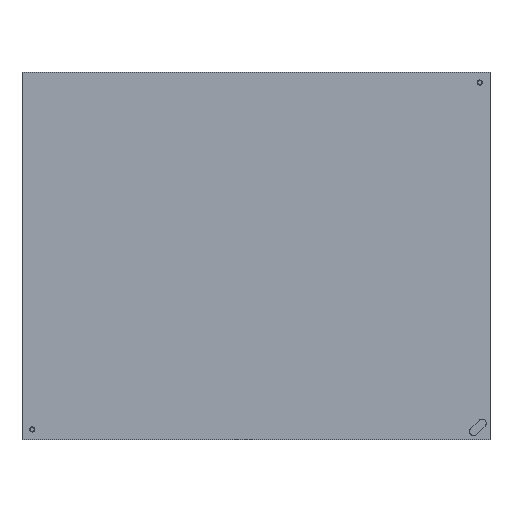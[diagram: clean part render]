
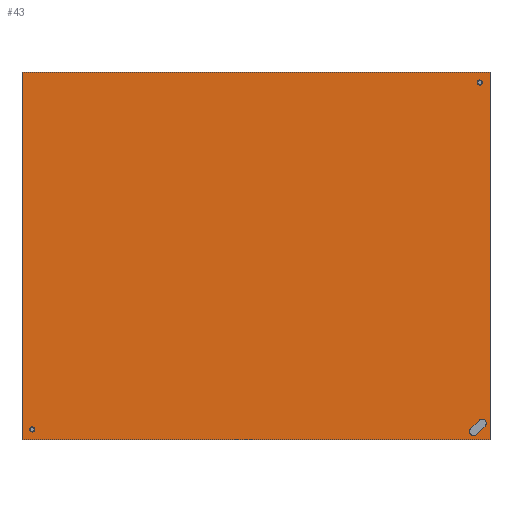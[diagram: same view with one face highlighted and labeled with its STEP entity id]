
A CAD part, front view. The second image highlights one B-rep face of the part: STEP entity #43.
In plain terms, the highlighted planar face has unit normal (0, -1, 0).
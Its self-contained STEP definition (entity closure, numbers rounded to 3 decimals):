
#2 = ORIENTED_EDGE ( 'NONE', *, *, #354, .F. ) ;
#14 = LINE ( 'NONE', #719, #769 ) ;
#17 = EDGE_CURVE ( 'NONE', #273, #810, #275, .T. ) ;
#19 = CARTESIAN_POINT ( 'NONE',  ( 0., 0., 0. ) ) ;
#25 = DIRECTION ( 'NONE',  ( 0., 0., -1. ) ) ;
#43 = ADVANCED_FACE ( 'NONE', ( #649, #632 ), #355, .F. ) ;
#45 = DIRECTION ( 'NONE',  ( 0., -1., 0. ) ) ;
#83 = VECTOR ( 'NONE', #378, 1000. ) ;
#84 = EDGE_CURVE ( 'NONE', #781, #895, #446, .T. ) ;
#123 = LINE ( 'NONE', #744, #475 ) ;
#147 = AXIS2_PLACEMENT_3D ( 'NONE', #870, #457, #25 ) ;
#150 = EDGE_CURVE ( 'NONE', #182, #273, #14, .T. ) ;
#151 = VERTEX_POINT ( 'NONE', #773 ) ;
#182 = VERTEX_POINT ( 'NONE', #291 ) ;
#184 = CARTESIAN_POINT ( 'NONE',  ( 227.071, 0., -168.586 ) ) ;
#198 = ORIENTED_EDGE ( 'NONE', *, *, #408, .F. ) ;
#208 = CIRCLE ( 'NONE', #580, 4. ) ;
#214 = EDGE_CURVE ( 'NONE', #810, #667, #464, .T. ) ;
#234 = CIRCLE ( 'NONE', #774, 4. ) ;
#257 = CARTESIAN_POINT ( 'NONE',  ( 218.586, 0., -177.071 ) ) ;
#271 = VECTOR ( 'NONE', #301, 1000. ) ;
#273 = VERTEX_POINT ( 'NONE', #556 ) ;
#275 = LINE ( 'NONE', #455, #83 ) ;
#291 = CARTESIAN_POINT ( 'NONE',  ( 232., 0., -182. ) ) ;
#301 = DIRECTION ( 'NONE',  ( 1., 0., 0. ) ) ;
#312 = DIRECTION ( 'NONE',  ( 0.707, 0., 0.707 ) ) ;
#320 = CARTESIAN_POINT ( 'NONE',  ( -232., 0., 182. ) ) ;
#338 = ORIENTED_EDGE ( 'NONE', *, *, #501, .F. ) ;
#354 = EDGE_CURVE ( 'NONE', #895, #151, #208, .T. ) ;
#355 = PLANE ( 'NONE',  #440 ) ;
#372 = DIRECTION ( 'NONE',  ( 0., -1., 0. ) ) ;
#378 = DIRECTION ( 'NONE',  ( 0., 0., 1. ) ) ;
#393 = CARTESIAN_POINT ( 'NONE',  ( 221.414, 0., -162.929 ) ) ;
#408 = EDGE_CURVE ( 'NONE', #437, #416, #886, .T. ) ;
#413 = EDGE_LOOP ( 'NONE', ( #2, #790, #648, #198, #608 ) ) ;
#416 = VERTEX_POINT ( 'NONE', #184 ) ;
#437 = VERTEX_POINT ( 'NONE', #257 ) ;
#440 = AXIS2_PLACEMENT_3D ( 'NONE', #19, #779, #785 ) ;
#446 = LINE ( 'NONE', #512, #611 ) ;
#455 = CARTESIAN_POINT ( 'NONE',  ( -232., 0., -182. ) ) ;
#457 = DIRECTION ( 'NONE',  ( 0., -1., 0. ) ) ;
#464 = LINE ( 'NONE', #581, #271 ) ;
#475 = VECTOR ( 'NONE', #532, 1000. ) ;
#501 = EDGE_CURVE ( 'NONE', #667, #182, #123, .T. ) ;
#512 = CARTESIAN_POINT ( 'NONE',  ( 221.414, 0., -162.929 ) ) ;
#532 = DIRECTION ( 'NONE',  ( 0., 0., -1. ) ) ;
#535 = DIRECTION ( 'NONE',  ( 0., 0., -1. ) ) ;
#549 = EDGE_CURVE ( 'NONE', #151, #437, #234, .T. ) ;
#556 = CARTESIAN_POINT ( 'NONE',  ( -232., 0., -182. ) ) ;
#557 = EDGE_LOOP ( 'NONE', ( #739, #856, #834, #338 ) ) ;
#570 = CIRCLE ( 'NONE', #147, 4. ) ;
#580 = AXIS2_PLACEMENT_3D ( 'NONE', #626, #45, #535 ) ;
#581 = CARTESIAN_POINT ( 'NONE',  ( -232., 0., 182. ) ) ;
#591 = DIRECTION ( 'NONE',  ( -0.707, 0., -0.707 ) ) ;
#608 = ORIENTED_EDGE ( 'NONE', *, *, #549, .F. ) ;
#611 = VECTOR ( 'NONE', #591, 1000. ) ;
#626 = CARTESIAN_POINT ( 'NONE',  ( 215.757, 0., -174.243 ) ) ;
#632 = FACE_OUTER_BOUND ( 'NONE', #557, .T. ) ;
#648 = ORIENTED_EDGE ( 'NONE', *, *, #670, .F. ) ;
#649 = FACE_BOUND ( 'NONE', #413, .T. ) ;
#660 = CARTESIAN_POINT ( 'NONE',  ( 232., 0., 182. ) ) ;
#664 = CARTESIAN_POINT ( 'NONE',  ( 218.586, 0., -177.071 ) ) ;
#667 = VERTEX_POINT ( 'NONE', #660 ) ;
#670 = EDGE_CURVE ( 'NONE', #416, #781, #570, .T. ) ;
#706 = VECTOR ( 'NONE', #312, 1000. ) ;
#719 = CARTESIAN_POINT ( 'NONE',  ( 232., 0., -182. ) ) ;
#739 = ORIENTED_EDGE ( 'NONE', *, *, #214, .F. ) ;
#744 = CARTESIAN_POINT ( 'NONE',  ( 232., 0., 182. ) ) ;
#769 = VECTOR ( 'NONE', #853, 1000. ) ;
#773 = CARTESIAN_POINT ( 'NONE',  ( 215.757, 0., -178.243 ) ) ;
#774 = AXIS2_PLACEMENT_3D ( 'NONE', #796, #372, #863 ) ;
#779 = DIRECTION ( 'NONE',  ( 0., 1., 0. ) ) ;
#781 = VERTEX_POINT ( 'NONE', #393 ) ;
#785 = DIRECTION ( 'NONE',  ( 0., 0., 1. ) ) ;
#790 = ORIENTED_EDGE ( 'NONE', *, *, #84, .F. ) ;
#796 = CARTESIAN_POINT ( 'NONE',  ( 215.757, 0., -174.243 ) ) ;
#810 = VERTEX_POINT ( 'NONE', #320 ) ;
#832 = CARTESIAN_POINT ( 'NONE',  ( 212.929, 0., -171.414 ) ) ;
#834 = ORIENTED_EDGE ( 'NONE', *, *, #150, .F. ) ;
#853 = DIRECTION ( 'NONE',  ( -1., 0., 0. ) ) ;
#856 = ORIENTED_EDGE ( 'NONE', *, *, #17, .F. ) ;
#863 = DIRECTION ( 'NONE',  ( 0., 0., -1. ) ) ;
#870 = CARTESIAN_POINT ( 'NONE',  ( 224.243, 0., -165.757 ) ) ;
#886 = LINE ( 'NONE', #664, #706 ) ;
#895 = VERTEX_POINT ( 'NONE', #832 ) ;
